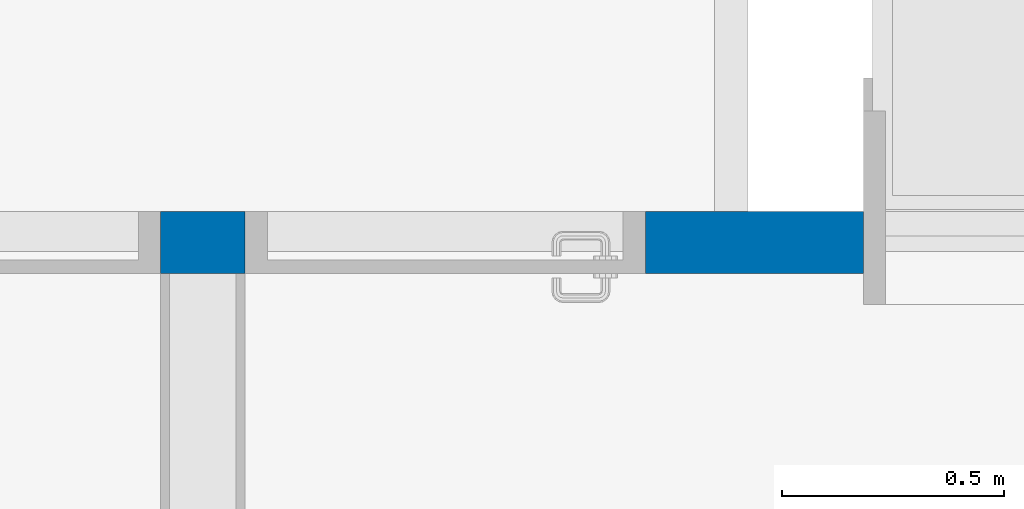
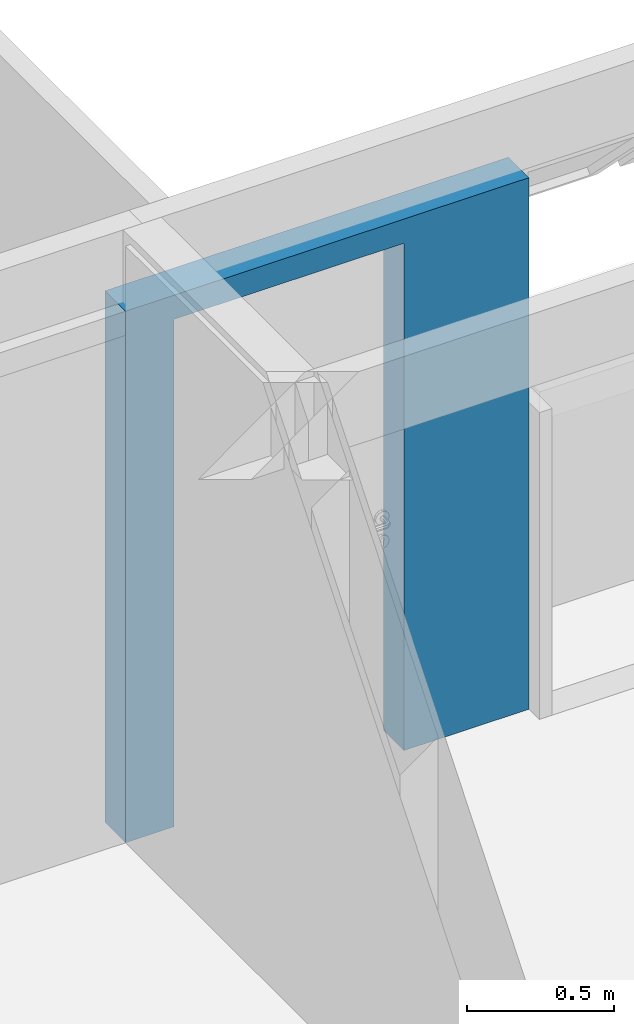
# One storey, part 15 of 37: 1 wall, 1 opening.
"""IFC2X3 building model written with IfcOpenShell, lengths in millimetres."""

from ifc_helpers import new_model, entity, si_unit, converted_unit, derived_unit, money_unit, direction, frame, origin_with_axes, origin_2d_with_axis, place, context, subcontext, project, spatial, polyline, rectangle, outline, extrude, material, layer, layer_set, layer_usage, type_object, element, save


model = new_model("IFC2X3")

# Units and contexts
model_context = context("Model", 3, precision=0.01, world=origin_with_axes(), true_north=direction((0.0, 1.0)))
body_context = subcontext(model_context, "Body", "Model", "MODEL_VIEW")
ifc_project = project(units=[si_unit("LENGTHUNIT", "METRE", prefix="MILLI"), si_unit("AREAUNIT", "SQUARE_METRE"), si_unit("VOLUMEUNIT", "CUBIC_METRE"), converted_unit("PLANEANGLEUNIT", "DEGREE", entity("IfcPlaneAngleMeasure", 0.0174532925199), si_unit("PLANEANGLEUNIT", "RADIAN"), dimensions=[0, 0, 0, 0, 0, 0, 0]), money_unit("USD"), converted_unit("TIMEUNIT", "Year", entity("IfcTimeMeasure", 31556926.0), si_unit("TIMEUNIT", "SECOND"), dimensions=[0, 0, 1, 0, 0, 0, 0]), si_unit("MASSUNIT", "GRAM", prefix="KILO"), si_unit("THERMODYNAMICTEMPERATUREUNIT", "DEGREE_CELSIUS"), si_unit("LUMINOUSINTENSITYUNIT", "LUMEN"), si_unit("ENERGYUNIT", "JOULE", prefix="MEGA"), derived_unit("THERMALCONDUCTANCEUNIT", [(si_unit("POWERUNIT", "WATT"), 1), (si_unit("LENGTHUNIT", "METRE"), -1), (si_unit("THERMODYNAMICTEMPERATUREUNIT", "KELVIN"), -1)]), derived_unit("SPECIFICHEATCAPACITYUNIT", [(si_unit("ENERGYUNIT", "JOULE"), 1), (si_unit("MASSUNIT", "GRAM", prefix="KILO"), -1), (si_unit("THERMODYNAMICTEMPERATUREUNIT", "KELVIN"), -1)]), derived_unit("MASSDENSITYUNIT", [(si_unit("MASSUNIT", "GRAM", prefix="KILO"), 1), (si_unit("VOLUMEUNIT", "CUBIC_METRE"), -1)])], contexts=[model_context])

# Site, building, storey
site_placement = place(None, origin_with_axes())
site = spatial("IfcSite", under=ifc_project, at=site_placement, Name="Local", CompositionType="ELEMENT")
building_placement = place(site_placement, origin_with_axes())
building = spatial("IfcBuilding", under=site, at=building_placement, Name="Construção", CompositionType="ELEMENT")
storey_placement = place(building_placement, frame((0.0, 0.0, 5300.0), z_axis=(0.0, 0.0, 1.0), x_axis=(1.0, 0.0, 0.0)))
storey = spatial("IfcBuildingStorey", under=building, at=storey_placement, Name="Terceiro Pavimento", CompositionType="ELEMENT", Elevation=5300.0)

# Wall, opening
ifc_material = material(Name="GENÉRICO - VEDAÇÃO EXTERNA")
ifc_layer = layer(ifc_material, 140.0, ventilated="UNKNOWN")
ifc_layer_set = layer_set([ifc_layer], Name="GENÉRICO - VEDAÇÃO EXTERNA 140")
ifc_layer_usage = layer_usage(ifc_layer_set, "AXIS2", "POSITIVE", 0.0)
wall_type = type_object("IfcWallType", Name="GENÉRICO - VEDAÇÃO EXTERNA 140", PredefinedType="NOTDEFINED")
wall_placement = place(storey_placement, frame((7290.0, 8125.0, 0.0), z_axis=(0.0, 0.0, 1.0), x_axis=(1.0, 0.0, 0.0)))
wall = element("IfcWallStandardCase", 1, at=wall_placement, inside=storey, type_object=wall_type, material=ifc_layer_usage, Name="APTO10-PAREDE-004", context=body_context, shape_type="SweptSolid", body=[
    extrude(outline(polyline([(0.0, 0.0), (1580.0, 0.0), (1580.0, 140.0), (0.0, 140.0), (0.0, 0.0)])), origin_with_axes(), (0.0, 0.0, 1.0), 2200.0),
])
opening_placement = place(wall_placement, frame((640.0, 0.0, 0.0), z_axis=(0.0, 0.0, 1.0), x_axis=(1.0, 0.0, 0.0)))
element("IfcOpeningElement", 2, at=opening_placement, cuts=wall, Name="APTO10-PORTA-004", context=body_context, shape_type="SweptSolid", body=[
    extrude(rectangle(XDim=900.0, YDim=2100.0, at=origin_2d_with_axis()), frame((0.0, -140.0, 1050.0), z_axis=(0.0, 1.0, 0.0), x_axis=(-1.0, 0.0, 0.0)), (0.0, 0.0, 1.0), 420.0),
])

save(model, "model.ifc")
